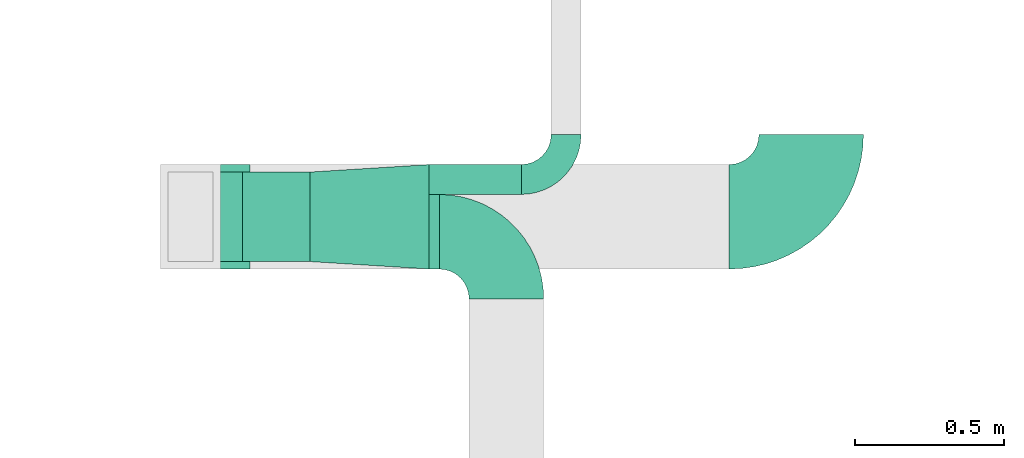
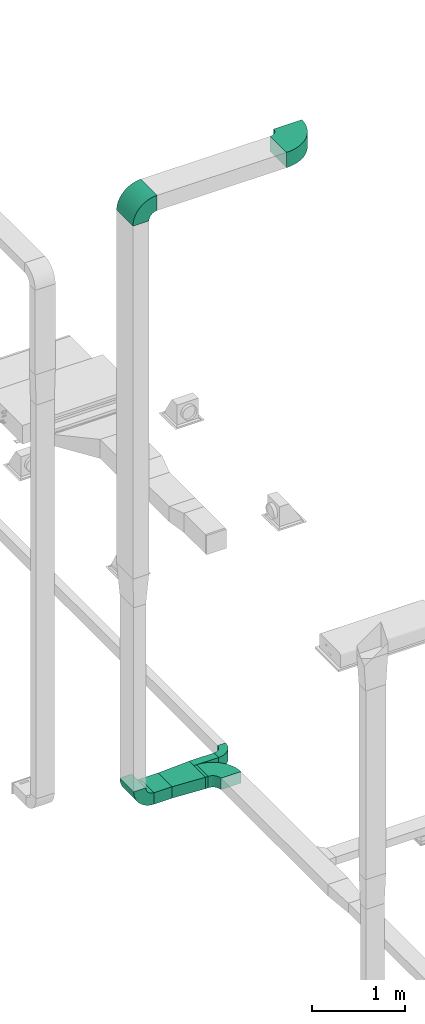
# One storey, part 7 of 22: 6 flow fittings, 3 flow segments.
"""IFC2X3 building model written with IfcOpenShell, lengths in millimetres."""

from ifc_helpers import new_model, entity, si_unit, converted_unit, derived_unit, direction, frame, frame_2d, origin, origin_2d_with_axis, place, context, subcontext, project, spatial, polyline, circle_curve, parameter, trimmed, segment, composite_curve, rectangle, outline, extrude, source, transform, mapped, material, type_object, type_shapes, element, save


model = new_model("IFC2X3")

# Units and contexts
model_context = context("Model", 3, precision=0.01, world=origin(), true_north=direction((6.123233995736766e-17, 1.0)))
body_context = subcontext(model_context, "Body", "Model", "MODEL_VIEW")
ifc_project = project(units=[si_unit("LENGTHUNIT", "METRE", prefix="MILLI"), converted_unit("PLANEANGLEUNIT", "DEGREE", entity("IfcPlaneAngleMeasure", 0.017453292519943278), si_unit("PLANEANGLEUNIT", "RADIAN"), dimensions=[0, 0, 0, 0, 0, 0, 0]), si_unit("AREAUNIT", "SQUARE_METRE"), derived_unit("THERMALTRANSMITTANCEUNIT", [(si_unit("MASSUNIT", "GRAM", prefix="KILO"), 1), (si_unit("THERMODYNAMICTEMPERATUREUNIT", "KELVIN"), -1), (si_unit("TIMEUNIT", "SECOND"), -3)])], contexts=[model_context])

# Site, building, storey
site_placement = place(None, origin())
site = spatial("IfcSite", under=ifc_project, at=site_placement, Name="Default", CompositionType="ELEMENT")
building_placement = place(site_placement, origin())
building = spatial("IfcBuilding", under=site, at=building_placement, Name="Praça Pedro II, 1301 - Centro (Sul), Teresina - PI, 64001-100", CompositionType="ELEMENT")
storey_placement = place(building_placement, frame((0.0, 0.0, 320.0)))
storey = spatial("IfcBuildingStorey", under=building, at=storey_placement, Name="TÉRREO +0.32m", CompositionType="ELEMENT", Elevation=319.99999999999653)

# Flow segments
duct_segment_type = type_object("IfcDuctSegmentType", Name="Duto retangular:Raios cotovelos / torneiras", PredefinedType="NOTDEFINED")
flow_segment_1_placement = place(storey_placement, origin())
element("IfcFlowSegment", 1, at=flow_segment_1_placement, inside=storey, type_object=duct_segment_type, Name="Duto retangular:Raios cotovelos / torneiras", ObjectType="Duto retangular:Raios cotovelos / torneiras", context=body_context, shape_type="SweptSolid", body=[
    extrude(rectangle(XDim=308.81830476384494, YDim=100.00000000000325, at=frame_2d((0.0, -4.334310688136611e-12), x_axis=(1.0, 0.0))), frame((35393.47982129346, -58860.15114948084, 2150.0), z_axis=(0.0, 0.0, 1.0), x_axis=(-1.0, 0.0, 0.0)), (0.0, 0.0, 1.0), 150.00000000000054),
])
flow_segment_2_placement = place(storey_placement, origin())
element("IfcFlowSegment", 2, at=flow_segment_2_placement, inside=storey, type_object=duct_segment_type, Name="Duto retangular:Raios cotovelos / torneiras", ObjectType="Duto retangular:Raios cotovelos / torneiras", context=body_context, shape_type="SweptSolid", body=[
    extrude(rectangle(XDim=225.00000000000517, YDim=300.0000000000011, at=frame_2d((-2.1671553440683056e-12, 0.0), x_axis=(1.0, 0.0))), frame((34726.57066891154, -58985.15114948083, 2150.0), z_axis=(0.0, 0.0, 1.0), x_axis=(-1.0, 0.0, 0.0)), (0.0, 0.0, 1.0), 150.00000000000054),
])
flow_segment_3_placement = place(storey_placement, origin())
element("IfcFlowSegment", 3, at=flow_segment_3_placement, inside=storey, type_object=duct_segment_type, Name="Duto retangular:Raios cotovelos / torneiras", ObjectType="Duto retangular:Raios cotovelos / torneiras", context=body_context, shape_type="SweptSolid", body=[
    extrude(rectangle(XDim=33.8183047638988, YDim=250.0000000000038, at=origin_2d_with_axis()), frame((35255.97982129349, -59035.15114948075, 2150.0), z_axis=(0.0, 0.0, 1.0), x_axis=(-1.0, 0.0, 0.0)), (0.0, 0.0, 1.0), 150.00000000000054),
])

# Flow fittings
ifc_material = material(Name="<Unnamed>")
duct_fitting_type_1 = type_object("IfcDuctFittingType", Name="BTS vanes:1 Splitter Vanes", PredefinedType="NOTDEFINED", material=ifc_material)
shared_shape_1 = source(origin(), body_context, "Body", "SweptSolid", [
    extrude(outline(composite_curve([segment(polyline([(-162.5, -87.49999999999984), (-12.499999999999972, -87.49999999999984)]), True, "CONTINUOUS"), segment(trimmed(circle_curve(frame_2d((87.50000000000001, -87.49999999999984), x_axis=(0.0, 1.0)), 99.99999999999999), [parameter(0.0)], [parameter(90.00000000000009)], True, "PARAMETER"), False, "CONTINUOUS"), segment(polyline([(87.50000000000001, 12.500000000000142), (87.50000000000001, 162.50000000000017)]), True, "CONTINUOUS"), segment(trimmed(circle_curve(frame_2d((87.50000000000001, -87.49999999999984), x_axis=(0.0, 1.0)), 250.00000000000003), [parameter(0.0)], [parameter(90.00000000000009)], True, "PARAMETER"), True, "CONTINUOUS")], self_intersect=False)), frame((-87.4999999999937, 87.49999999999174, -150.0), z_axis=(0.0, 0.0, 1.0), x_axis=(-1.0, 0.0, 0.0)), (0.0, 0.0, 1.0), 300.0),
    extrude(outline(composite_curve([segment(polyline([(-77.63157894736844, -59.21052631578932), (-40.789473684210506, -59.21052631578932)]), True, "CONTINUOUS"), segment(trimmed(circle_curve(frame_2d((59.210526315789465, -59.21052631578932), x_axis=(0.0, 1.0)), 99.99999999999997), [parameter(0.0)], [parameter(90.00000000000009)], True, "PARAMETER"), False, "CONTINUOUS"), segment(polyline([(59.210526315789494, 40.78947368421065), (59.210526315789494, 77.63157894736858)]), True, "CONTINUOUS"), segment(trimmed(circle_curve(frame_2d((59.210526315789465, -59.21052631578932), x_axis=(0.0, 1.0)), 136.8421052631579), [parameter(0.0)], [parameter(90.00000000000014)], True, "PARAMETER"), True, "CONTINUOUS")], self_intersect=False)), frame((-115.78947368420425, 115.78947368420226, -150.0), z_axis=(0.0, 0.0, 1.0), x_axis=(-1.0, 0.0, 0.0)), (0.0, 0.0, 1.0), 300.0),
])
type_shapes(duct_fitting_type_1, [shared_shape_1])
flow_fitting_1_placement = place(storey_placement, frame((34439.07066891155, -58985.15114948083, 2225.0), z_axis=(0.0, 1.0, 0.0), x_axis=(-1.0, 0.0, 0.0)))
element("IfcFlowFitting", 4, at=flow_fitting_1_placement, inside=storey, type_object=duct_fitting_type_1, material=ifc_material, Name="BTS vanes:1 Splitter Vanes", ObjectType="BTS vanes:1 Splitter Vanes", context=body_context, shape_type="MappedRepresentation", body=[
    mapped(shared_shape_1, transform((0.0, 0.0, 0.0), scale=1.0)),
])
duct_fitting_type_2 = type_object("IfcDuctFittingType", Name="BTS vanes:1 Splitter Vanes", PredefinedType="NOTDEFINED", material=ifc_material)
shared_shape_2 = source(origin(), body_context, "Body", "SweptSolid", [
    extrude(outline(composite_curve([segment(polyline([(-125.0, -75.0), (-25.0, -75.0)]), True, "CONTINUOUS"), segment(trimmed(circle_curve(frame_2d((75.0, -75.0), x_axis=(0.0, 1.0)), 100.0), [parameter(0.0)], [parameter(90.00000000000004)], True, "PARAMETER"), False, "CONTINUOUS"), segment(polyline([(75.0, 25.0), (75.0, 125.0)]), True, "CONTINUOUS"), segment(trimmed(circle_curve(frame_2d((75.0, -75.0), x_axis=(0.0, 1.0)), 200.0), [parameter(0.0)], [parameter(90.00000000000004)], True, "PARAMETER"), True, "CONTINUOUS")], self_intersect=False)), frame((-75.0, 75.0, -75.0), z_axis=(0.0, 0.0, 1.0), x_axis=(-1.0, 0.0, 0.0)), (0.0, 0.0, 1.0), 150.0),
    extrude(outline(composite_curve([segment(polyline([(-77.63157894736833, -59.21052631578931), (-40.78947368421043, -59.2105263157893)]), True, "CONTINUOUS"), segment(trimmed(circle_curve(frame_2d((59.21052631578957, -59.21052631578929), x_axis=(0.0, 1.0)), 99.99999999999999), [parameter(0.0)], [parameter(90.00000000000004)], True, "PARAMETER"), False, "CONTINUOUS"), segment(polyline([(59.210526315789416, 40.789473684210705), (59.21052631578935, 77.63157894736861)]), True, "CONTINUOUS"), segment(trimmed(circle_curve(frame_2d((59.21052631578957, -59.21052631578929), x_axis=(0.0, 1.0)), 136.8421052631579), [parameter(0.0)], [parameter(89.99999999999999)], True, "PARAMETER"), True, "CONTINUOUS")], self_intersect=False)), frame((-90.78947368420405, 90.78947368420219, -75.0), z_axis=(0.0, 0.0, 1.0), x_axis=(-1.0, 0.0, 0.0)), (0.0, 0.0, 1.0), 150.0),
])
type_shapes(duct_fitting_type_2, [shared_shape_2])
flow_fitting_2_placement = place(storey_placement, frame((35697.888973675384, -58860.15114948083, 2225.0)))
element("IfcFlowFitting", 5, at=flow_fitting_2_placement, inside=storey, type_object=duct_fitting_type_2, material=ifc_material, Name="BTS vanes:1 Splitter Vanes", ObjectType="BTS vanes:1 Splitter Vanes", context=body_context, shape_type="MappedRepresentation", body=[
    mapped(shared_shape_2, transform((0.0, 0.0, 0.0), scale=1.0)),
])
duct_fitting_type_3 = type_object("IfcDuctFittingType", Name="M_Rectangular Transition - Length x2:250+100", PredefinedType="NOTDEFINED", material=ifc_material)
shared_shape_3 = source(origin(), body_context, "Body", "SweptSolid", [
    extrude(outline(polyline([(-210.52671577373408, -162.1835440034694), (190.25377277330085, -162.18354400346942), (208.96725861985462, 137.23222954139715), (-188.6943156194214, 187.13485846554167), (-210.52671577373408, -162.1835440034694)])), frame((200.0, 0.0, -75.0), z_axis=(0.0, 0.0, 1.0), x_axis=(0.9980525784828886, 0.062378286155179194, 0.0)), (0.0, 0.0, 1.0), 150.0),
])
type_shapes(duct_fitting_type_3, [shared_shape_3])
flow_fitting_3_placement = place(storey_placement, frame((35239.0706689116, -58985.15114948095, 2225.0), z_axis=(0.0, 0.0, 1.0), x_axis=(-1.0, 0.0, 0.0)))
element("IfcFlowFitting", 6, at=flow_fitting_3_placement, inside=storey, type_object=duct_fitting_type_3, material=ifc_material, Name="M_Rectangular Transition - Length x2:250+100", ObjectType="M_Rectangular Transition - Length x2:250+100", context=body_context, shape_type="MappedRepresentation", body=[
    mapped(shared_shape_3, transform((0.0, 0.0, 0.0), scale=1.0)),
])
duct_fitting_type_4 = type_object("IfcDuctFittingType", Name="BTS vanes:1 Splitter Vanes", PredefinedType="NOTDEFINED", material=ifc_material)
shared_shape_4 = source(origin(), body_context, "Body", "SweptSolid", [
    extrude(outline(composite_curve([segment(polyline([(-237.5, -112.49999999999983), (12.5, -112.49999999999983)]), True, "CONTINUOUS"), segment(trimmed(circle_curve(frame_2d((112.5, -112.49999999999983), x_axis=(0.0, 1.0)), 100.0), [parameter(0.0)], [parameter(90.00000000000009)], True, "PARAMETER"), False, "CONTINUOUS"), segment(polyline([(112.5, -12.49999999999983), (112.5, 237.50000000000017)]), True, "CONTINUOUS"), segment(trimmed(circle_curve(frame_2d((112.5, -112.49999999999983), x_axis=(0.0, 1.0)), 350.0), [parameter(0.0)], [parameter(90.00000000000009)], True, "PARAMETER"), True, "CONTINUOUS")], self_intersect=False)), frame((-112.49999999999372, 112.49999999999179, -75.0), z_axis=(0.0, 0.0, 1.0), x_axis=(-1.0, 0.0, 0.0)), (0.0, 0.0, 1.0), 150.0),
    extrude(outline(composite_curve([segment(polyline([(-77.63157894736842, -59.21052631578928), (-40.78947368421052, -59.21052631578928)]), True, "CONTINUOUS"), segment(trimmed(circle_curve(frame_2d((59.21052631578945, -59.21052631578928), x_axis=(0.0, 1.0)), 99.99999999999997), [parameter(0.0)], [parameter(90.00000000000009)], True, "PARAMETER"), False, "CONTINUOUS"), segment(polyline([(59.21052631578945, 40.78947368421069), (59.21052631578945, 77.6315789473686)]), True, "CONTINUOUS"), segment(trimmed(circle_curve(frame_2d((59.21052631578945, -59.21052631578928), x_axis=(0.0, 1.0)), 136.8421052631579), [parameter(0.0)], [parameter(90.00000000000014)], True, "PARAMETER"), True, "CONTINUOUS")], self_intersect=False)), frame((-165.78947368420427, 165.78947368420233, -75.0), z_axis=(0.0, 0.0, 1.0), x_axis=(-1.0, 0.0, 0.0)), (0.0, 0.0, 1.0), 150.0),
])
type_shapes(duct_fitting_type_4, [shared_shape_4])
flow_fitting_4_placement = place(storey_placement, frame((35497.88897367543, -59035.1511494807, 2225.0), z_axis=(0.0, 0.0, 1.0), x_axis=(0.0, 1.0, 0.0)))
element("IfcFlowFitting", 7, at=flow_fitting_4_placement, inside=storey, type_object=duct_fitting_type_4, material=ifc_material, Name="BTS vanes:1 Splitter Vanes", ObjectType="BTS vanes:1 Splitter Vanes", context=body_context, shape_type="MappedRepresentation", body=[
    mapped(shared_shape_4, transform((0.0, 0.0, 0.0), scale=1.0)),
])
duct_fitting_type_5 = type_object("IfcDuctFittingType", Name="BTS vanes:1 Splitter Vanes", PredefinedType="NOTDEFINED", material=ifc_material)
shared_shape_5 = source(origin(), body_context, "Body", "SweptSolid", [
    extrude(outline(composite_curve([segment(polyline([(-200.0, -100.0), (0.0, -100.0)]), True, "CONTINUOUS"), segment(trimmed(circle_curve(frame_2d((100.0, -100.0), x_axis=(0.0, 1.0)), 99.99999999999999), [parameter(0.0)], [parameter(90.00000000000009)], True, "PARAMETER"), False, "CONTINUOUS"), segment(polyline([(100.0, 0.0), (100.0, 200.0)]), True, "CONTINUOUS"), segment(trimmed(circle_curve(frame_2d((100.0, -100.0), x_axis=(0.0, 1.0)), 300.0), [parameter(0.0)], [parameter(90.00000000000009)], True, "PARAMETER"), True, "CONTINUOUS")], self_intersect=False)), frame((-100.0, 100.0, -175.0), z_axis=(0.0, 0.0, 1.0), x_axis=(-1.0, 0.0, 0.0)), (0.0, 0.0, 1.0), 350.0),
    extrude(outline(composite_curve([segment(polyline([(-77.63157894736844, -59.21052631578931), (-40.789473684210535, -59.21052631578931)]), True, "CONTINUOUS"), segment(trimmed(circle_curve(frame_2d((59.21052631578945, -59.21052631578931), x_axis=(0.0, 1.0)), 99.99999999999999), [parameter(0.0)], [parameter(90.00000000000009)], True, "PARAMETER"), False, "CONTINUOUS"), segment(polyline([(59.21052631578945, 40.78947368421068), (59.21052631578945, 77.63157894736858)]), True, "CONTINUOUS"), segment(trimmed(circle_curve(frame_2d((59.21052631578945, -59.21052631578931), x_axis=(0.0, 1.0)), 136.84210526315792), [parameter(0.0)], [parameter(90.00000000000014)], True, "PARAMETER"), True, "CONTINUOUS")], self_intersect=False)), frame((-140.78947368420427, 140.78947368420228, -175.0), z_axis=(0.0, 0.0, 1.0), x_axis=(-1.0, 0.0, 0.0)), (0.0, 0.0, 1.0), 350.0),
])
type_shapes(duct_fitting_type_5, [shared_shape_5])
flow_fitting_5_placement = place(storey_placement, frame((34439.07066891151, -58985.15114948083, 10038.9536266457), z_axis=(0.0, 1.0, 0.0), x_axis=(0.0, 0.0, 1.0)))
element("IfcFlowFitting", 8, at=flow_fitting_5_placement, inside=storey, type_object=duct_fitting_type_5, material=ifc_material, Name="BTS vanes:1 Splitter Vanes", ObjectType="BTS vanes:1 Splitter Vanes", context=body_context, shape_type="MappedRepresentation", body=[
    mapped(shared_shape_5, transform((0.0, 0.0, 0.0), scale=1.0)),
])
duct_fitting_type_6 = type_object("IfcDuctFittingType", Name="BTS vanes:1 Splitter Vanes", PredefinedType="NOTDEFINED", material=ifc_material)
shared_shape_6 = source(origin(), body_context, "Body", "SweptSolid", [
    extrude(outline(composite_curve([segment(polyline([(-312.5, -137.4999999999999), (37.5, -137.4999999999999)]), True, "CONTINUOUS"), segment(trimmed(circle_curve(frame_2d((137.50000000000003, -137.49999999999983), x_axis=(0.0, 1.0)), 99.99999999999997), [parameter(0.0)], [parameter(90.00000000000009)], True, "PARAMETER"), False, "CONTINUOUS"), segment(polyline([(137.50000000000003, -37.49999999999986), (137.50000000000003, 312.50000000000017)]), True, "CONTINUOUS"), segment(trimmed(circle_curve(frame_2d((137.50000000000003, -137.49999999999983), x_axis=(0.0, 1.0)), 450.00000000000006), [parameter(0.0)], [parameter(90.00000000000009)], True, "PARAMETER"), True, "CONTINUOUS")], self_intersect=False)), frame((-137.49999999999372, 137.49999999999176, -100.0), z_axis=(0.0, 0.0, 1.0), x_axis=(-1.0, 0.0, 0.0)), (0.0, 0.0, 1.0), 200.0),
    extrude(outline(composite_curve([segment(polyline([(-77.63157894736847, -59.210526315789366), (-40.78947368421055, -59.210526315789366)]), True, "CONTINUOUS"), segment(trimmed(circle_curve(frame_2d((59.21052631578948, -59.210526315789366), x_axis=(0.0, 1.0)), 100.0), [parameter(0.0)], [parameter(90.00000000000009)], True, "PARAMETER"), False, "CONTINUOUS"), segment(polyline([(59.21052631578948, 40.78947368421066), (59.21052631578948, 77.63157894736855)]), True, "CONTINUOUS"), segment(trimmed(circle_curve(frame_2d((59.21052631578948, -59.210526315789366), x_axis=(0.0, 1.0)), 136.84210526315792), [parameter(0.0)], [parameter(90.00000000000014)], True, "PARAMETER"), True, "CONTINUOUS")], self_intersect=False)), frame((-215.78947368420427, 215.78947368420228, -100.0), z_axis=(0.0, 0.0, 1.0), x_axis=(-1.0, 0.0, 0.0)), (0.0, 0.0, 1.0), 200.0),
])
type_shapes(duct_fitting_type_6, [shared_shape_6])
flow_fitting_6_placement = place(storey_placement, frame((36519.070668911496, -58985.151149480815, 10038.953626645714)))
element("IfcFlowFitting", 9, at=flow_fitting_6_placement, inside=storey, type_object=duct_fitting_type_6, material=ifc_material, Name="BTS vanes:1 Splitter Vanes", ObjectType="BTS vanes:1 Splitter Vanes", context=body_context, shape_type="MappedRepresentation", body=[
    mapped(shared_shape_6, transform((0.0, 0.0, 0.0), scale=1.0)),
])

save(model, "model.ifc")
